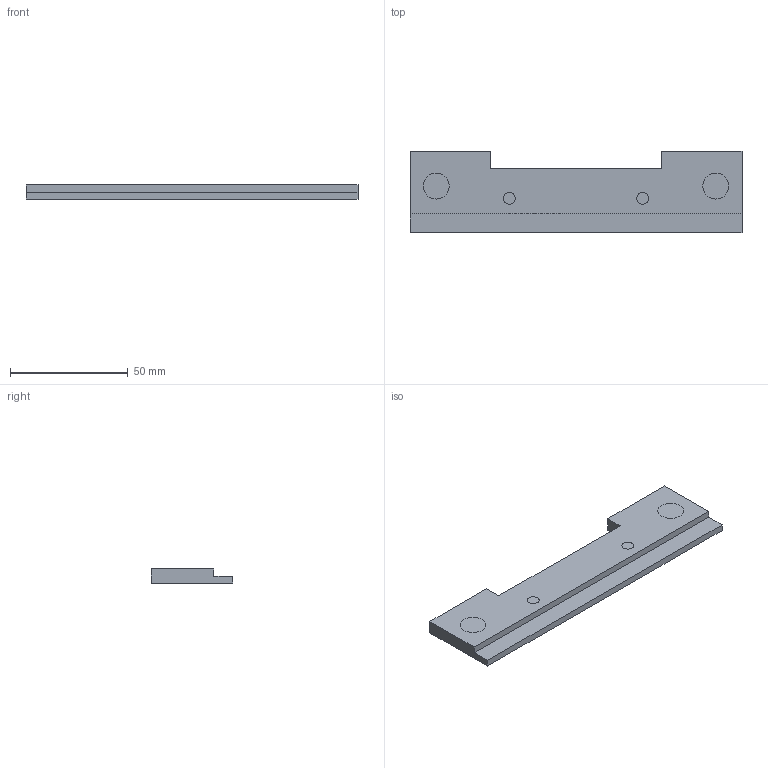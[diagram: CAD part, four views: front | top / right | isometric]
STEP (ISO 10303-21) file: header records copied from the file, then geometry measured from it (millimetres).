
FILE_DESCRIPTION(/* description */ (''),/* implementation_level */ '2;1');
FILE_NAME(/* name */ 'LA-5036-0202#-A.stp',/* time_stamp */ '2012-09-04T13:07:44+01:00',/* author */ (''),/* organization */ (''),/* preprocessor_version */ 'ST-DEVELOPER v11',/* originating_system */ 'SIEMENS PLM Software NX 7.5',/* authorisation */ '');
FILE_SCHEMA (('AUTOMOTIVE_DESIGN { 1 0 10303 214 1 1 1 1 }'));
Length unit declared in the file: millimetre
Products named in the file (1): rt133622tjku
Bounding box: 141 x 34.5 x 5.95 mm (x, y, z)
Volume: 22379.5 mm3; surface area: 10787.9 mm2
Topology: 1 solids, 1 shells, 20 faces, 47 edges, 35 vertices
Faces by surface type: plane 15, bspline 5
Entity records: 742 total; most frequent: CARTESIAN_POINT 127, ORIENTED_EDGE 94, DIRECTION 76, EDGE_CURVE 47, VERTEX_POINT 35, LINE 32, VECTOR 32, EDGE_LOOP 26
